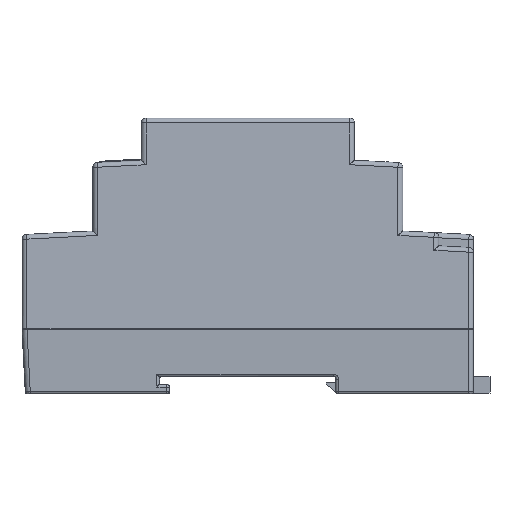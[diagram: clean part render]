
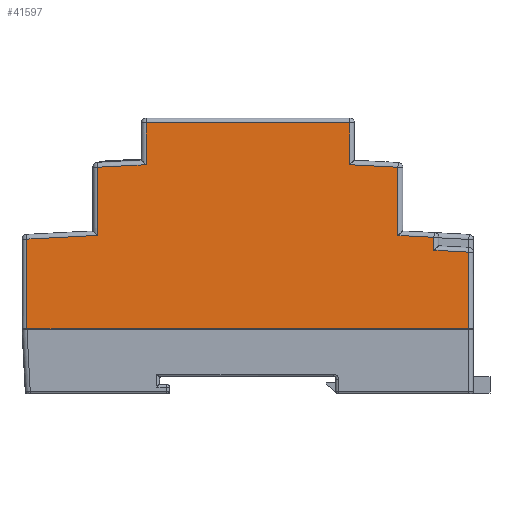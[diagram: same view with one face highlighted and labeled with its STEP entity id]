
A CAD part, left-side view. The second image highlights one B-rep face of the part: STEP entity #41597.
In plain terms, the highlighted planar face has unit normal (-0.999, 0, 0.052) as drawn and (0, 0.999, 0.052) by its records, which use the part's own axes.
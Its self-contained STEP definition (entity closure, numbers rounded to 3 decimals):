
#15093=DIRECTION('',(0.,-0.052,0.999));
#15094=VECTOR('',#15093,18.131);
#15095=CARTESIAN_POINT('',(44.5,35.5,0.));
#15096=LINE('',#15095,#15094);
#15114=DIRECTION('',(1.,0.,0.));
#15115=VECTOR('',#15114,89.);
#15116=CARTESIAN_POINT('',(-44.5,35.5,0.));
#15117=LINE('',#15116,#15115);
#15121=DIRECTION('',(0.999,0.003,-0.052));
#15122=VECTOR('',#15121,14.27);
#15123=CARTESIAN_POINT('',(30.25,34.512,18.853));
#15124=LINE('',#15123,#15122);
#15128=DIRECTION('',(0.999,0.003,-0.052));
#15129=VECTOR('',#15128,9.763);
#15130=CARTESIAN_POINT('',(20.5,33.765,33.103));
#15131=LINE('',#15130,#15129);
#15135=DIRECTION('',(0.999,-0.003,0.052));
#15136=VECTOR('',#15135,9.763);
#15137=CARTESIAN_POINT('',(-30.25,33.792,32.592));
#15138=LINE('',#15137,#15136);
#15142=DIRECTION('',(0.999,-0.003,0.052));
#15143=VECTOR('',#15142,7.26);
#15144=CARTESIAN_POINT('',(-37.5,34.532,18.473));
#15145=LINE('',#15144,#15143);
#15149=DIRECTION('',(0.999,-0.003,0.052));
#15150=VECTOR('',#15149,7.01);
#15151=CARTESIAN_POINT('',(-44.5,34.688,15.487));
#15152=LINE('',#15151,#15150);
#15168=DIRECTION('',(0.,-0.052,0.999));
#15169=VECTOR('',#15168,13.758);
#15170=CARTESIAN_POINT('',(30.25,34.512,18.853));
#15171=LINE('',#15170,#15169);
#18879=CARTESIAN_POINT('',(-44.5,35.5,0.));
#18884=DIRECTION('',(0.,0.052,-0.999));
#18885=VECTOR('',#18884,15.508);
#18886=CARTESIAN_POINT('',(-44.5,34.688,15.487));
#18887=LINE('',#18886,#18885);
#18917=DIRECTION('',(0.,0.052,-0.999));
#18918=VECTOR('',#18917,2.624);
#18919=CARTESIAN_POINT('',(-37.5,34.532,18.473));
#18920=LINE('',#18919,#18918);
#19087=DIRECTION('',(0.,0.052,-0.999));
#19088=VECTOR('',#19087,13.758);
#19089=CARTESIAN_POINT('',(-30.25,33.792,32.592));
#19090=LINE('',#19089,#19088);
#19125=CARTESIAN_POINT('',(-20.5,33.765,33.103));
#19137=DIRECTION('',(0.,0.052,-0.999));
#19138=VECTOR('',#19137,8.461);
#19139=CARTESIAN_POINT('',(-20.5,33.322,41.552));
#19140=LINE('',#19139,#19138);
#19175=DIRECTION('',(-1.,0.,0.));
#19176=VECTOR('',#19175,41.);
#19177=CARTESIAN_POINT('',(20.5,33.322,41.552));
#19178=LINE('',#19177,#19176);
#19206=DIRECTION('',(0.,-0.052,0.999));
#19207=VECTOR('',#19206,8.461);
#19208=CARTESIAN_POINT('',(20.5,33.765,33.103));
#19209=LINE('',#19208,#19207);
#36405=CARTESIAN_POINT('',(44.5,34.551,18.107));
#36406=VERTEX_POINT('',#36405);
#36472=CARTESIAN_POINT('',(20.5,33.322,41.552));
#36473=VERTEX_POINT('',#36472);
#36474=CARTESIAN_POINT('',(-20.5,33.322,41.552));
#36475=VERTEX_POINT('',#36474);
#36710=VERTEX_POINT('',#19125);
#36711=CARTESIAN_POINT('',(-30.25,33.792,32.592));
#36712=CARTESIAN_POINT('',(-30.25,34.512,18.853));
#36713=VERTEX_POINT('',#36711);
#36714=VERTEX_POINT('',#36712);
#36715=CARTESIAN_POINT('',(20.5,33.765,33.103));
#36716=VERTEX_POINT('',#36715);
#36717=CARTESIAN_POINT('',(30.25,33.792,32.592));
#36718=VERTEX_POINT('',#36717);
#36719=CARTESIAN_POINT('',(30.25,34.512,18.853));
#36720=VERTEX_POINT('',#36719);
#36721=CARTESIAN_POINT('',(-44.5,34.688,15.487));
#36722=CARTESIAN_POINT('',(-37.5,34.669,15.853));
#36723=VERTEX_POINT('',#36721);
#36724=VERTEX_POINT('',#36722);
#36725=CARTESIAN_POINT('',(-37.5,34.532,18.473));
#36726=VERTEX_POINT('',#36725);
#39205=VERTEX_POINT('',#18879);
#39206=CARTESIAN_POINT('',(44.5,35.5,0.));
#39207=VERTEX_POINT('',#39206);
#41564=CARTESIAN_POINT('',(-46.976,35.5,0.));
#41565=DIRECTION('',(0.,-0.999,-0.052));
#41566=DIRECTION('',(0.,0.052,-0.999));
#41567=AXIS2_PLACEMENT_3D('',#41564,#41565,#41566);
#41568=PLANE('',#41567);
#41569=ORIENTED_EDGE('',*,*,#41555,.T.);
#41570=ORIENTED_EDGE('',*,*,#41529,.T.);
#41572=ORIENTED_EDGE('',*,*,#41571,.F.);
#41574=ORIENTED_EDGE('',*,*,#41573,.T.);
#41576=ORIENTED_EDGE('',*,*,#41575,.F.);
#41578=ORIENTED_EDGE('',*,*,#41577,.T.);
#41580=ORIENTED_EDGE('',*,*,#41579,.T.);
#41582=ORIENTED_EDGE('',*,*,#41581,.T.);
#41584=ORIENTED_EDGE('',*,*,#41583,.F.);
#41586=ORIENTED_EDGE('',*,*,#41585,.T.);
#41588=ORIENTED_EDGE('',*,*,#41587,.F.);
#41590=ORIENTED_EDGE('',*,*,#41589,.T.);
#41592=ORIENTED_EDGE('',*,*,#41591,.F.);
#41594=ORIENTED_EDGE('',*,*,#41593,.T.);
#41595=EDGE_LOOP('',(#41569,#41570,#41572,#41574,#41576,#41578,#41580,#41582,
#41584,#41586,#41588,#41590,#41592,#41594));
#41596=FACE_OUTER_BOUND('',#41595,.F.);
#41529=EDGE_CURVE('',#39207,#36406,#15096,.T.);
#41555=EDGE_CURVE('',#39205,#39207,#15117,.T.);
#41571=EDGE_CURVE('',#36720,#36406,#15124,.T.);
#41573=EDGE_CURVE('',#36720,#36718,#15171,.T.);
#41575=EDGE_CURVE('',#36716,#36718,#15131,.T.);
#41577=EDGE_CURVE('',#36716,#36473,#19209,.T.);
#41579=EDGE_CURVE('',#36473,#36475,#19178,.T.);
#41581=EDGE_CURVE('',#36475,#36710,#19140,.T.);
#41583=EDGE_CURVE('',#36713,#36710,#15138,.T.);
#41585=EDGE_CURVE('',#36713,#36714,#19090,.T.);
#41587=EDGE_CURVE('',#36726,#36714,#15145,.T.);
#41589=EDGE_CURVE('',#36726,#36724,#18920,.T.);
#41591=EDGE_CURVE('',#36723,#36724,#15152,.T.);
#41593=EDGE_CURVE('',#36723,#39205,#18887,.T.);
#41597=ADVANCED_FACE('',(#41596),#41568,.F.);
